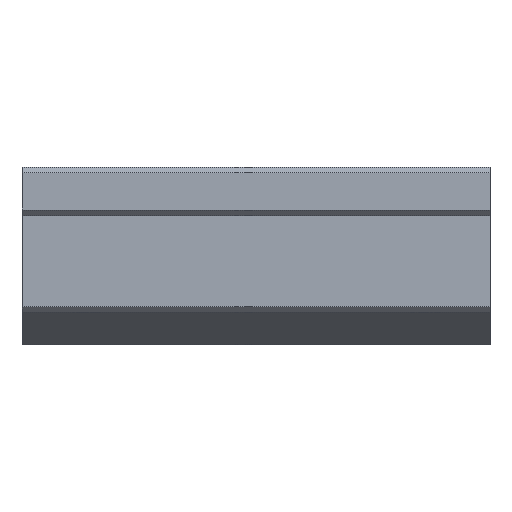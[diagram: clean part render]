
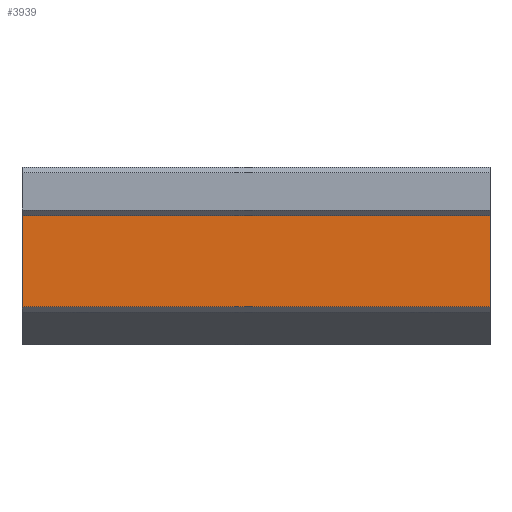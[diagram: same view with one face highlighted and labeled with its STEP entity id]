
A CAD part, top view. The second image highlights one B-rep face of the part: STEP entity #3939.
In plain terms, the highlighted planar face has unit normal (0, 0, 1).
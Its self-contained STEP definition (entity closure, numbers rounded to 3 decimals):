
#106 = PLANE('',#107);
#107 = AXIS2_PLACEMENT_3D('',#108,#109,#110);
#108 = CARTESIAN_POINT('',(29.,1.387,0.));
#109 = DIRECTION('',(1.,0.,0.));
#110 = DIRECTION('',(0.,0.,-1.));
#170 = PLANE('',#171);
#171 = AXIS2_PLACEMENT_3D('',#172,#173,#174);
#172 = CARTESIAN_POINT('',(-29.,1.387,0.));
#173 = DIRECTION('',(1.,0.,0.));
#174 = DIRECTION('',(0.,0.,-1.));
#3830 = PLANE('',#3831);
#3831 = AXIS2_PLACEMENT_3D('',#3832,#3833,#3834);
#3832 = CARTESIAN_POINT('',(-29.,-6.66,15.98));
#3833 = DIRECTION('',(0.,-0.707,0.707)
  );
#3834 = DIRECTION('',(0.,-0.707,-0.707)
  );
#3868 = VERTEX_POINT('',#3869);
#3869 = CARTESIAN_POINT('',(29.,-6.32,16.32));
#3890 = EDGE_CURVE('',#3891,#3868,#3893,.T.);
#3891 = VERTEX_POINT('',#3892);
#3892 = CARTESIAN_POINT('',(-29.,-6.32,16.32));
#3893 = SURFACE_CURVE('',#3894,(#3898,#3905),.PCURVE_S1.);
#3894 = LINE('',#3895,#3896);
#3895 = CARTESIAN_POINT('',(-29.,-6.32,16.32));
#3896 = VECTOR('',#3897,1.);
#3897 = DIRECTION('',(1.,0.,0.));
#3898 = PCURVE('',#3830,#3899);
#3899 = DEFINITIONAL_REPRESENTATION('',(#3900),#3904);
#3900 = LINE('',#3901,#3902);
#3901 = CARTESIAN_POINT('',(-0.481,0.));
#3902 = VECTOR('',#3903,1.);
#3903 = DIRECTION('',(0.,1.));
#3904 = ( GEOMETRIC_REPRESENTATION_CONTEXT(2) 
PARAMETRIC_REPRESENTATION_CONTEXT() REPRESENTATION_CONTEXT('2D SPACE',''
  ) );
#3905 = PCURVE('',#3906,#3911);
#3906 = PLANE('',#3907);
#3907 = AXIS2_PLACEMENT_3D('',#3908,#3909,#3910);
#3908 = CARTESIAN_POINT('',(-29.,-0.66,16.32));
#3909 = DIRECTION('',(0.,0.,1.));
#3910 = DIRECTION('',(0.,-1.,0.));
#3911 = DEFINITIONAL_REPRESENTATION('',(#3912),#3916);
#3912 = LINE('',#3913,#3914);
#3913 = CARTESIAN_POINT('',(5.66,0.));
#3914 = VECTOR('',#3915,1.);
#3915 = DIRECTION('',(0.,1.));
#3916 = ( GEOMETRIC_REPRESENTATION_CONTEXT(2) 
PARAMETRIC_REPRESENTATION_CONTEXT() REPRESENTATION_CONTEXT('2D SPACE',''
  ) );
#3939 = ADVANCED_FACE('',(#3940),#3906,.T.);
#3940 = FACE_BOUND('',#3941,.T.);
#3941 = EDGE_LOOP('',(#3942,#3965,#3993,#4014));
#3942 = ORIENTED_EDGE('',*,*,#3943,.T.);
#3943 = EDGE_CURVE('',#3868,#3944,#3946,.T.);
#3944 = VERTEX_POINT('',#3945);
#3945 = CARTESIAN_POINT('',(29.,5.,16.32));
#3946 = SURFACE_CURVE('',#3947,(#3951,#3958),.PCURVE_S1.);
#3947 = LINE('',#3948,#3949);
#3948 = CARTESIAN_POINT('',(29.,5.,16.32));
#3949 = VECTOR('',#3950,1.);
#3950 = DIRECTION('',(0.,1.,0.));
#3951 = PCURVE('',#3906,#3952);
#3952 = DEFINITIONAL_REPRESENTATION('',(#3953),#3957);
#3953 = LINE('',#3954,#3955);
#3954 = CARTESIAN_POINT('',(-5.66,58.));
#3955 = VECTOR('',#3956,1.);
#3956 = DIRECTION('',(-1.,0.));
#3957 = ( GEOMETRIC_REPRESENTATION_CONTEXT(2) 
PARAMETRIC_REPRESENTATION_CONTEXT() REPRESENTATION_CONTEXT('2D SPACE',''
  ) );
#3958 = PCURVE('',#106,#3959);
#3959 = DEFINITIONAL_REPRESENTATION('',(#3960),#3964);
#3960 = LINE('',#3961,#3962);
#3961 = CARTESIAN_POINT('',(-16.32,3.613));
#3962 = VECTOR('',#3963,1.);
#3963 = DIRECTION('',(0.,1.));
#3964 = ( GEOMETRIC_REPRESENTATION_CONTEXT(2) 
PARAMETRIC_REPRESENTATION_CONTEXT() REPRESENTATION_CONTEXT('2D SPACE',''
  ) );
#3965 = ORIENTED_EDGE('',*,*,#3966,.F.);
#3966 = EDGE_CURVE('',#3967,#3944,#3969,.T.);
#3967 = VERTEX_POINT('',#3968);
#3968 = CARTESIAN_POINT('',(-29.,5.,16.32));
#3969 = SURFACE_CURVE('',#3970,(#3974,#3981),.PCURVE_S1.);
#3970 = LINE('',#3971,#3972);
#3971 = CARTESIAN_POINT('',(-29.,5.,16.32));
#3972 = VECTOR('',#3973,1.);
#3973 = DIRECTION('',(1.,0.,0.));
#3974 = PCURVE('',#3906,#3975);
#3975 = DEFINITIONAL_REPRESENTATION('',(#3976),#3980);
#3976 = LINE('',#3977,#3978);
#3977 = CARTESIAN_POINT('',(-5.66,0.));
#3978 = VECTOR('',#3979,1.);
#3979 = DIRECTION('',(0.,1.));
#3980 = ( GEOMETRIC_REPRESENTATION_CONTEXT(2) 
PARAMETRIC_REPRESENTATION_CONTEXT() REPRESENTATION_CONTEXT('2D SPACE',''
  ) );
#3981 = PCURVE('',#3982,#3987);
#3982 = PLANE('',#3983);
#3983 = AXIS2_PLACEMENT_3D('',#3984,#3985,#3986);
#3984 = CARTESIAN_POINT('',(-29.,5.34,16.66));
#3985 = DIRECTION('',(0.,-0.707,0.707)
  );
#3986 = DIRECTION('',(0.,-0.707,-0.707)
  );
#3987 = DEFINITIONAL_REPRESENTATION('',(#3988),#3992);
#3988 = LINE('',#3989,#3990);
#3989 = CARTESIAN_POINT('',(0.481,0.));
#3990 = VECTOR('',#3991,1.);
#3991 = DIRECTION('',(0.,1.));
#3992 = ( GEOMETRIC_REPRESENTATION_CONTEXT(2) 
PARAMETRIC_REPRESENTATION_CONTEXT() REPRESENTATION_CONTEXT('2D SPACE',''
  ) );
#3993 = ORIENTED_EDGE('',*,*,#3994,.T.);
#3994 = EDGE_CURVE('',#3967,#3891,#3995,.T.);
#3995 = SURFACE_CURVE('',#3996,(#4000,#4007),.PCURVE_S1.);
#3996 = LINE('',#3997,#3998);
#3997 = CARTESIAN_POINT('',(-29.,5.,16.32));
#3998 = VECTOR('',#3999,1.);
#3999 = DIRECTION('',(0.,-1.,0.));
#4000 = PCURVE('',#3906,#4001);
#4001 = DEFINITIONAL_REPRESENTATION('',(#4002),#4006);
#4002 = LINE('',#4003,#4004);
#4003 = CARTESIAN_POINT('',(-5.66,0.));
#4004 = VECTOR('',#4005,1.);
#4005 = DIRECTION('',(1.,0.));
#4006 = ( GEOMETRIC_REPRESENTATION_CONTEXT(2) 
PARAMETRIC_REPRESENTATION_CONTEXT() REPRESENTATION_CONTEXT('2D SPACE',''
  ) );
#4007 = PCURVE('',#170,#4008);
#4008 = DEFINITIONAL_REPRESENTATION('',(#4009),#4013);
#4009 = LINE('',#4010,#4011);
#4010 = CARTESIAN_POINT('',(-16.32,3.613));
#4011 = VECTOR('',#4012,1.);
#4012 = DIRECTION('',(0.,-1.));
#4013 = ( GEOMETRIC_REPRESENTATION_CONTEXT(2) 
PARAMETRIC_REPRESENTATION_CONTEXT() REPRESENTATION_CONTEXT('2D SPACE',''
  ) );
#4014 = ORIENTED_EDGE('',*,*,#3890,.T.);
